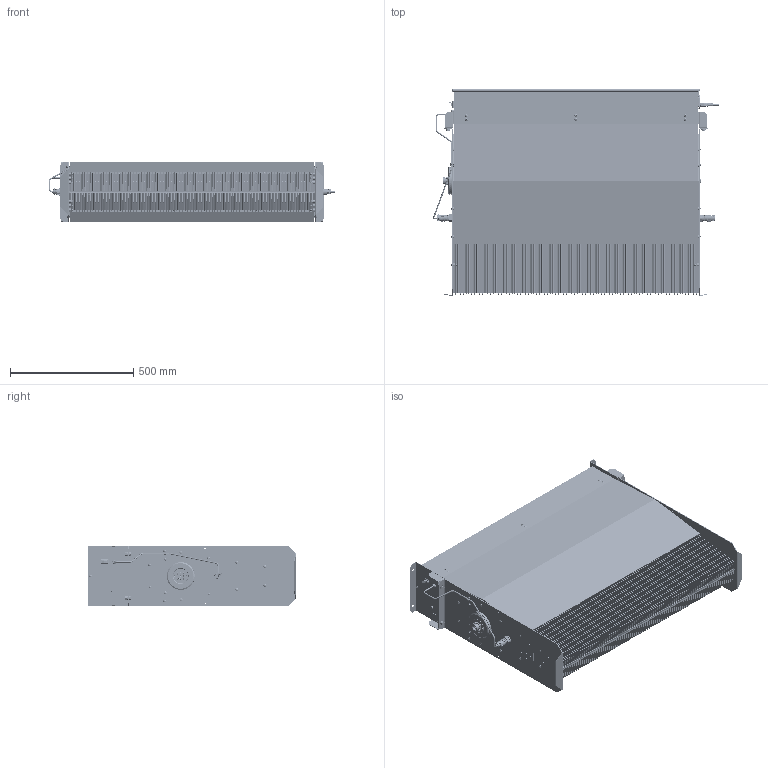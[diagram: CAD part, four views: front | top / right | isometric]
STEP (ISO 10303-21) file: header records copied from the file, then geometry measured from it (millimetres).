
FILE_DESCRIPTION(/* description */ ('Unknown'),/* implementation_level */ '2;1');
FILE_NAME(/* name */ '8941SC13',/* time_stamp */ '2015-07-15T12:02:24-04:00',/* author */ ('Unknown'),/* organization */ ('Unknown'),/* preprocessor_version */ 'ST-DEVELOPER v16',/* originating_system */ 'DEX',/* authorisation */ $);
FILE_SCHEMA (('AUTOMOTIVE_DESIGN {1 0 10303 214 3 1 1}'));
Products named in the file (1): 8941SC13
Bounding box: 1163.7 x 846.7 x 247.08 mm (x, y, z)
Volume: 23070456.5 mm3; surface area: 17356705.1 mm2
Topology: 174 solids, 182 shells, 14464 faces, 44804 edges, 31544 vertices
Faces by surface type: plane 10345, cylinder 2445, cone 790, bspline 603, torus 211, sphere 70
Full cylindrical faces by diameter (mm): 0.831 x1, 1.006 x2, 1.016 x2, 1.017 x1, 1.062 x2, 1.27 x2, 1.351 x1, 1.4 x6, 1.463 x1, 1.575 x2, 1.843 x1, 2.156 x26, 2.184 x4, 2.2 x1, 2.5 x1, 2.6 x2, 2.616 x8, 2.921 x7, 3 x2, 3.048 x1, 3.099 x1, 3.1 x2, 3.2 x2, 3.307 x10, 3.353 x4, 3.454 x4, 3.81 x12, 3.967 x44, 3.97 x16, 4.14 x3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
Entity records: 736804 total; most frequent: CARTESIAN_POINT 294064, ORIENTED_EDGE 85728, DIRECTION 68874, EDGE_CURVE 42864, VERTEX_POINT 31052, LINE 27198, VECTOR 27198, AXIS2_PLACEMENT_3D 20838
